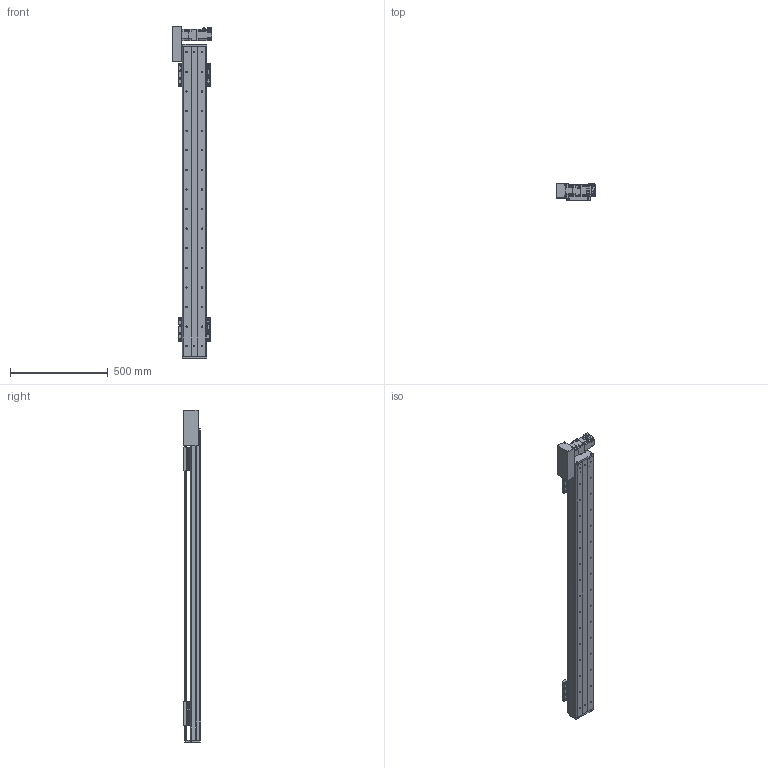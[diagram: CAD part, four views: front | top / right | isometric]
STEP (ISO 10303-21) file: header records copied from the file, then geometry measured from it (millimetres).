
FILE_DESCRIPTION(/* description */ (''),/* implementation_level */ '2;1');
FILE_NAME(/* name */ 'C:\Users\PC\Desktop\3D도면\STEP\DSB125-L2G-W1300-R.stp',/* time_stamp */ '2018-06-13T13:49:56+09:00',/* author */ ('PC'),/* organization */ (''),/* preprocessor_version */ 'ST-DEVELOPER v16.5',/* originating_system */ 'Autodesk Inventor 2017',/* authorisation */ '');
FILE_SCHEMA (('AUTOMOTIVE_DESIGN { 1 0 10303 214 3 1 1 }'));
Length unit declared in the file: millimetre
Products named in the file (12): DSB125-L-300ST; DSR125-BASE(S-TYPE); DSR125-REAR COVER-R01(170203); DSR125-REAR COVER-R01(170203)_1; DSR125-UP COVER-R01(170203); DSR125-TABLE(MSA15X); hg-kr23_; ab0601-p0401200402; 13-BELT COVER; DSR126-SENSOR DOG; pm-y65_step; SENSOR BRACKET(EE-SX674A)
Assembly tree (16 placements, depth 2):
  DSB125-L-300ST
    DSR125-BASE(S-TYPE)
    DSR125-REAR COVER-R01(170203)
    DSR125-REAR COVER-R01(170203)_1
    DSR125-UP COVER-R01(170203)
    DSR125-TABLE(MSA15X)  x2
    hg-kr23_
    ab0601-p0401200402
    13-BELT COVER
    DSR126-SENSOR DOG
    pm-y65_step  x3
    SENSOR BRACKET(EE-SX674A)  x3
Bounding box: 202.1 x 88 x 1694 mm (x, y, z)
Volume: 5661080.5 mm3; surface area: 1629791.3 mm2
Topology: 17 solids, 22 shells, 1685 faces, 4561 edges, 3006 vertices
Faces by surface type: plane 908, cylinder 643, cone 122, sphere 8, torus 4
Full cylindrical faces by diameter (mm): 2.459 x20, 3.242 x16, 3.5 x6, 4 x1, 4.134 x16, 4.2 x4, 4.3 x1, 4.5 x50, 4.917 x20, 5 x27, 5.3 x1, 5.5 x4, 5.6 x8, 5.8 x4, 5.9 x8, 6 x4, 6.6 x22, 6.647 x32, 7.5 x32, 8.5 x8, 8.7 x1, 11 x22, 14 x1, 16 x2, 17 x1, 20 x1, 47 x1, 50 x3
Entity records: 35830 total; most frequent: CARTESIAN_POINT 6571, DIRECTION 6220, ORIENTED_EDGE 5526, EDGE_CURVE 2768, AXIS2_PLACEMENT_3D 2298, VERTEX_POINT 1977, EDGE_LOOP 1721, LINE 1624
